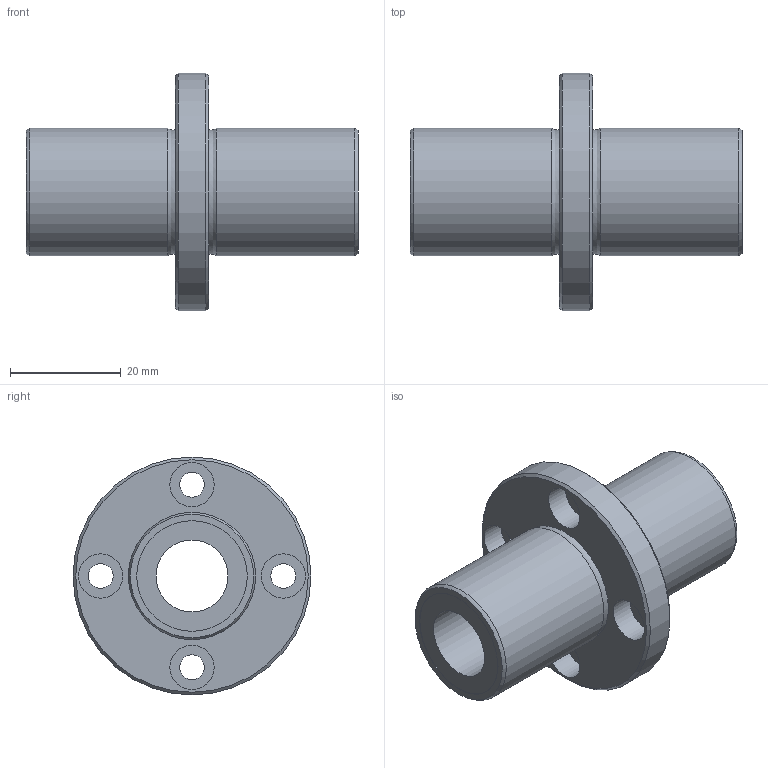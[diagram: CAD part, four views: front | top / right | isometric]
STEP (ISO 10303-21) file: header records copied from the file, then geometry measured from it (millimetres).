
FILE_DESCRIPTION((''),'2;1');
FILE_NAME('D:\製品 (図面)\カタログ用3D\リニアベアリング関連\STEP形式\LFDC\LFDC13.stp','2010-06-03T09:27:15',('Tsuchiya'),(''),'Autodesk Inventor 10','Autodesk Inventor 10','');
FILE_SCHEMA(('AUTOMOTIVE_DESIGN { 1 0 10303 214 1 1 1 1 }'));
Length unit declared in the file: millimetre
Products named in the file (1): LFDC13
Bounding box: 60 x 43 x 43 mm (x, y, z)
Volume: 22080.9 mm3; surface area: 10125.7 mm2
Topology: 1 solids, 1 shells, 30 faces, 54 edges, 34 vertices
Faces by surface type: cylinder 14, plane 10, cone 2, torus 2, bspline 2
Full cylindrical faces by diameter (mm): 4.5 x4, 8 x4, 13 x1, 20 x2, 23 x2, 43 x1
Entity records: 803 total; most frequent: CARTESIAN_POINT 223, DIRECTION 126, ORIENTED_EDGE 68, EDGE_LOOP 68, AXIS2_PLACEMENT_3D 63, FACE_BOUND 38, VERTEX_POINT 34, CIRCLE 34
